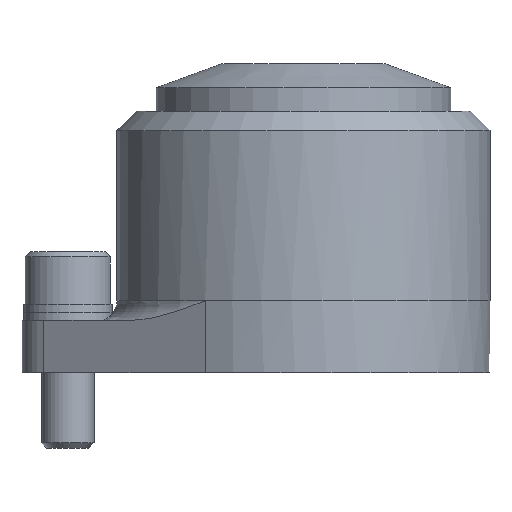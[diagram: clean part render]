
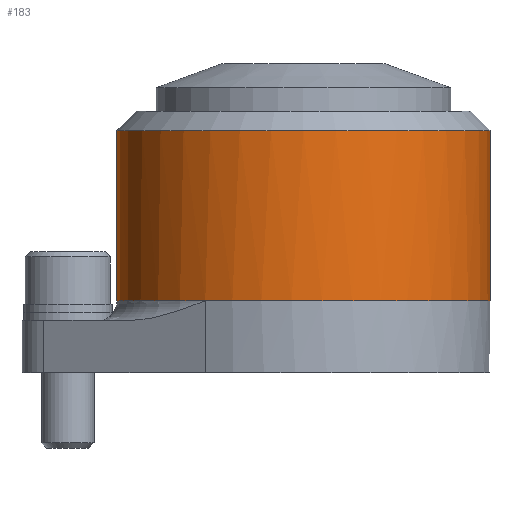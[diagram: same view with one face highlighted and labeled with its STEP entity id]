
A CAD part, front view. The second image highlights one B-rep face of the part: STEP entity #183.
In plain terms, the highlighted cylindrical face has radius 28.5 mm (diameter 57 mm), a partial arc.
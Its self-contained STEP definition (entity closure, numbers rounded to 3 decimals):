
#183=ADVANCED_FACE('',(#294),#256,.T.);
#256=CYLINDRICAL_SURFACE('',#1296,28.5);
#294=FACE_OUTER_BOUND('',#356,.T.);
#356=EDGE_LOOP('',(#559,#560,#561,#562,#563));
#440=CIRCLE('',#1271,28.5);
#458=CIRCLE('',#1294,28.5);
#459=CIRCLE('',#1295,28.5);
#559=ORIENTED_EDGE('',*,*,#963,.T.);
#560=ORIENTED_EDGE('',*,*,#988,.T.);
#561=ORIENTED_EDGE('',*,*,#989,.F.);
#562=ORIENTED_EDGE('',*,*,#986,.F.);
#563=ORIENTED_EDGE('',*,*,#990,.T.);
#857=VERTEX_POINT('',#1835);
#858=VERTEX_POINT('',#1837);
#876=VERTEX_POINT('',#1881);
#877=VERTEX_POINT('',#1883);
#878=VERTEX_POINT('',#1885);
#963=EDGE_CURVE('',#858,#857,#440,.T.);
#986=EDGE_CURVE('',#876,#877,#1132,.T.);
#988=EDGE_CURVE('',#857,#878,#1133,.T.);
#989=EDGE_CURVE('',#877,#878,#458,.T.);
#990=EDGE_CURVE('',#876,#858,#459,.T.);
#1132=LINE('',#1882,#1204);
#1133=LINE('',#1886,#1205);
#1204=VECTOR('',#1485,1.);
#1205=VECTOR('',#1488,1.);
#1271=AXIS2_PLACEMENT_3D('',#1836,#1437,#1438);
#1294=AXIS2_PLACEMENT_3D('',#1888,#1491,#1492);
#1295=AXIS2_PLACEMENT_3D('',#1889,#1493,#1494);
#1296=AXIS2_PLACEMENT_3D('',#1890,#1495,#1496);
#1437=DIRECTION('',(0.,0.,1.));
#1438=DIRECTION('',(-1.,0.,0.));
#1485=DIRECTION('',(0.,0.,1.));
#1488=DIRECTION('',(0.,0.,1.));
#1491=DIRECTION('',(0.,0.,1.));
#1492=DIRECTION('',(0.,1.,0.));
#1493=DIRECTION('',(0.,0.,1.));
#1494=DIRECTION('',(0.,1.,0.));
#1495=DIRECTION('',(0.,0.,1.));
#1496=DIRECTION('',(0.,-1.,0.));
#1835=CARTESIAN_POINT('',(28.5,0.,11.));
#1836=CARTESIAN_POINT('',(0.,0.,11.));
#1837=CARTESIAN_POINT('',(-15.001,-24.232,11.));
#1881=CARTESIAN_POINT('',(-28.5,0.,11.));
#1882=CARTESIAN_POINT('',(-28.5,0.,37.));
#1883=CARTESIAN_POINT('',(-28.5,0.,37.));
#1885=CARTESIAN_POINT('',(28.5,0.,37.));
#1886=CARTESIAN_POINT('',(28.5,0.,37.));
#1888=CARTESIAN_POINT('',(0.,0.,37.));
#1889=CARTESIAN_POINT('',(0.,0.,11.));
#1890=CARTESIAN_POINT('',(0.,0.,0.));
